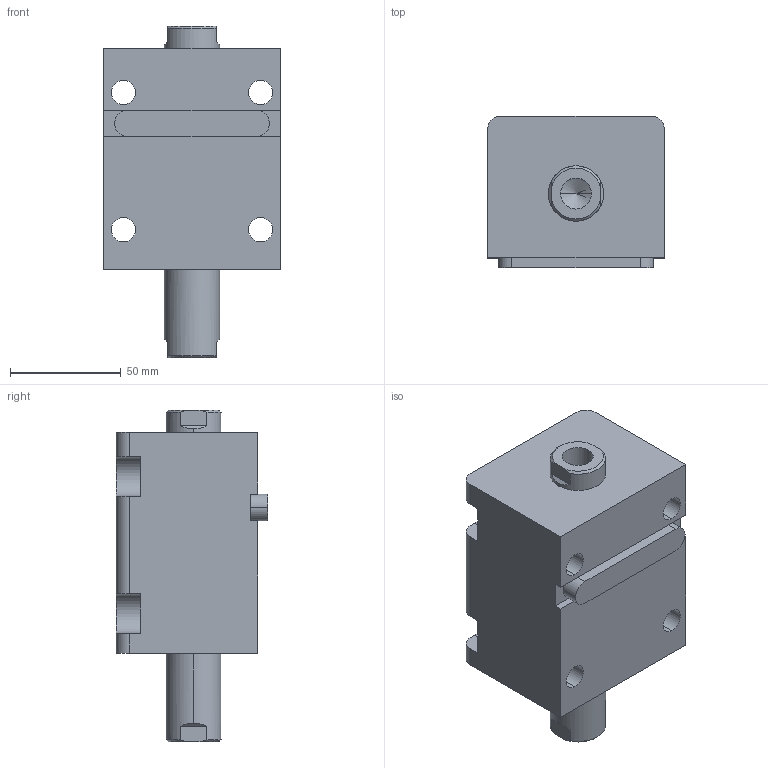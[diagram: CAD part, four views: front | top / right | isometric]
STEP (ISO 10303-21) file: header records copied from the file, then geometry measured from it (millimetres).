
FILE_DESCRIPTION (( 'STEP AP203' ), '1' );
FILE_NAME ('HTB-LW40-30N.STEP', '2019-10-09T07:54:41', ( '微软用户' ), ( '微软中国' ), 'SwSTEP 2.0', 'SolidWorks 2012', '' );
FILE_SCHEMA (( 'CONFIG_CONTROL_DESIGN' ));
Length unit declared in the file: millimetre
Products named in the file (4): HTB-LA40-瑩; HTB-LW40-30N; HTB-LW40-30掛极; HTB-LW40-30N活塞杆
Assembly tree (3 placements, depth 2):
  HTB-LW40-30N
    HTB-LW40-30掛极
    HTB-LW40-30N活塞杆
    HTB-LA40-瑩
Bounding box: 80 x 68.5 x 150 mm (x, y, z)
Volume: 472994.1 mm3; surface area: 77965.8 mm2
Topology: 3 solids, 3 shells, 105 faces, 261 edges, 168 vertices
Faces by surface type: plane 44, cylinder 41, cone 12, torus 8
Entity records: 3567 total; most frequent: CARTESIAN_POINT 588, DIRECTION 573, ORIENTED_EDGE 514, EDGE_CURVE 257, AXIS2_PLACEMENT_3D 221, VERTEX_POINT 168, LINE 131, VECTOR 131
